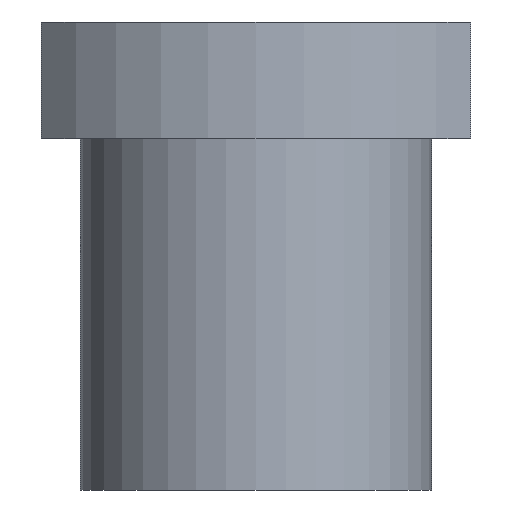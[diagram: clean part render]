
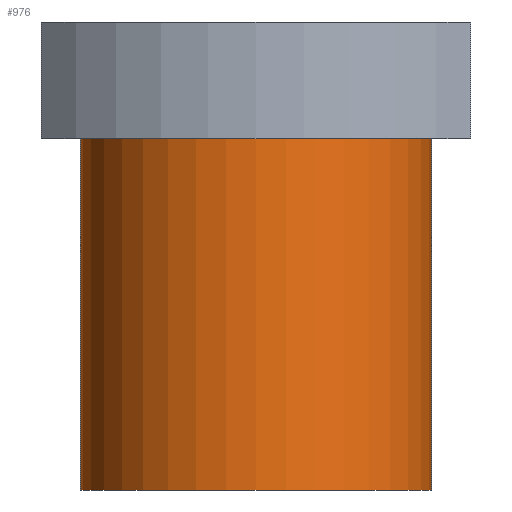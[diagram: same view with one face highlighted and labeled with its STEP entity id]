
A CAD part, front view. The second image highlights one B-rep face of the part: STEP entity #976.
In plain terms, the highlighted cylindrical face has radius 18 mm (diameter 36 mm), a partial arc.
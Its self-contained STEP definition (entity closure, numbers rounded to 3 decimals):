
#16=CARTESIAN_POINT('',(0.,0.,-18.));
#17=DIRECTION('',(0.,0.,1.));
#18=DIRECTION('',(-1.,0.,0.));
#19=AXIS2_PLACEMENT_3D('',#16,#17,#18);
#380=DIRECTION('',(0.,0.,1.));
#381=VECTOR('',#380,36.);
#382=CARTESIAN_POINT('',(18.,0.,-18.));
#383=LINE('',#382,#381);
#384=CARTESIAN_POINT('',(0.,0.,18.));
#385=DIRECTION('',(0.,0.,1.));
#386=DIRECTION('',(-1.,0.,0.));
#387=AXIS2_PLACEMENT_3D('',#384,#385,#386);
#389=DIRECTION('',(0.,0.,1.));
#390=VECTOR('',#389,36.);
#391=CARTESIAN_POINT('',(-18.,0.,-18.));
#392=LINE('',#391,#390);
#397=CARTESIAN_POINT('',(18.,0.,-18.));
#398=CARTESIAN_POINT('',(-18.,0.,-18.));
#399=VERTEX_POINT('',#397);
#400=VERTEX_POINT('',#398);
#469=CARTESIAN_POINT('',(18.,0.,18.));
#470=CARTESIAN_POINT('',(-18.,0.,18.));
#471=VERTEX_POINT('',#469);
#472=VERTEX_POINT('',#470);
#965=CARTESIAN_POINT('',(0.,0.,-18.));
#966=DIRECTION('',(0.,0.,1.));
#967=DIRECTION('',(1.,0.,0.));
#968=AXIS2_PLACEMENT_3D('',#965,#966,#967);
#969=CYLINDRICAL_SURFACE('',#968,18.);
#970=ORIENTED_EDGE('',*,*,#664,.T.);
#971=ORIENTED_EDGE('',*,*,#960,.F.);
#972=ORIENTED_EDGE('',*,*,#496,.F.);
#973=ORIENTED_EDGE('',*,*,#957,.T.);
#974=EDGE_LOOP('',(#970,#971,#972,#973));
#975=FACE_OUTER_BOUND('',#974,.F.);
#20=CIRCLE('',#19,18.);
#388=CIRCLE('',#387,18.);
#496=EDGE_CURVE('',#400,#399,#20,.T.);
#664=EDGE_CURVE('',#472,#471,#388,.T.);
#957=EDGE_CURVE('',#400,#472,#392,.T.);
#960=EDGE_CURVE('',#399,#471,#383,.T.);
#976=ADVANCED_FACE('',(#975),#969,.T.);
